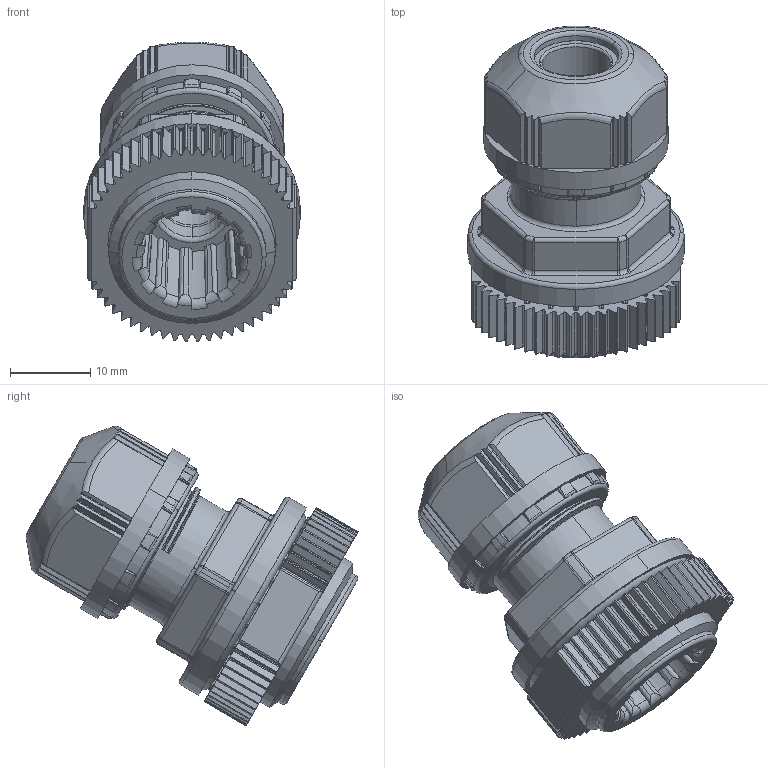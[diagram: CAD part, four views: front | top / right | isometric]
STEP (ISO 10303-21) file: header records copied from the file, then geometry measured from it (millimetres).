
FILE_DESCRIPTION(('CoCreate Modeling STEP Export'),'2;1');
FILE_NAME('OA-W1608_公開データ.stp','2011-07-14T 9:56:09',(''),(''),'CoCreate Modeling STEP processor for AP214 (Solid Model)','CoCreate Modeling 17.00A 17-Jun-2010 (C) Parametric Technology GmbH','');
FILE_SCHEMA(('AUTOMOTIVE_DESIGN { 1 0 10303 214 1 1 1 1 }'));
Length unit declared in the file: millimetre
Products named in the file (5): OA-W1608; ゴムブッシュ; ロックナット
Assembly tree (2 placements, depth 2):
  OA-W1608
    OA-W1608
  ゴムブッシュ
  ロックナット
    ロックナット
Bounding box: 27 x 41.41 x 37.35 mm (x, y, z)
Volume: 11881.4 mm3; surface area: 8770.9 mm2
Topology: 3 solids, 3 shells, 1042 faces, 2887 edges, 1803 vertices
Faces by surface type: cylinder 444, plane 332, torus 86, bspline 72, sphere 62, cone 46
Entity records: 46840 total; most frequent: CARTESIAN_POINT 22588, ORIENTED_EDGE 5650, DIRECTION 4369, EDGE_CURVE 2825, VERTEX_POINT 1803, AXIS2_PLACEMENT_3D 1573, VECTOR 1223, LINE 1223
